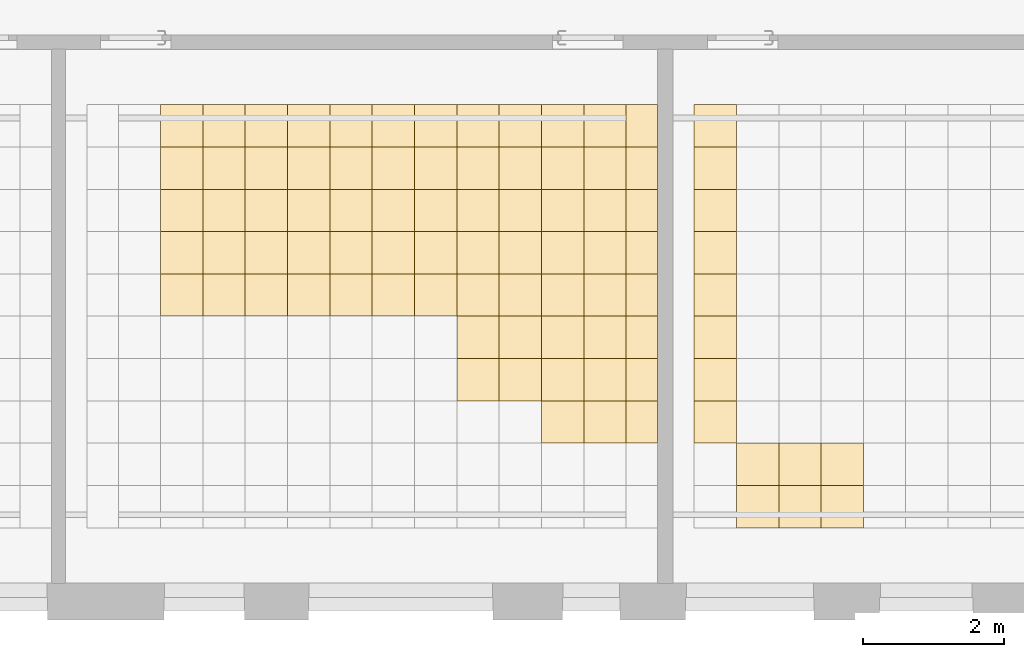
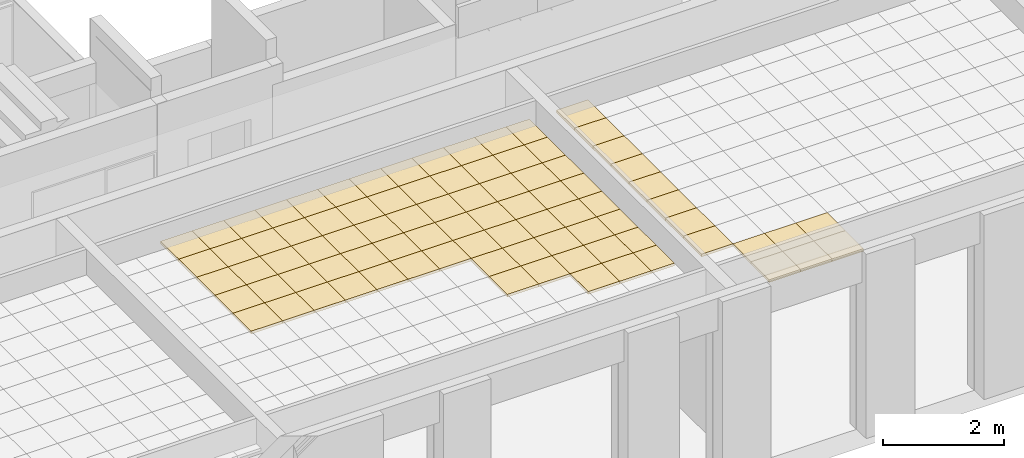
# One storey, part 67 of 79: 87 coverings.
"""IFC2X3 building model written with IfcOpenShell, lengths in millimetres."""

import ifcopenshell
import ifcopenshell.guid

model = None  # the IFC model being written
_history = None  # IfcOwnerHistory: only IFC2X3 demands one
_inside = {}  # id of a spatial element -> (the spatial element, [elements in it])
_under = {}  # id of a project, library or spatial element -> (it, [spatial elements below it])
_declared = {}  # id of a project -> (the project, [libraries it declares])
_typed = {}  # id of a type object -> (the type object, [elements of that type])
_made_of = {}  # id of a material, layer set ... -> (it, [elements and type objects made of it])


def new_model(schema):
    """Start an empty IFC model of exactly this schema.

    Asked for "IFC4X3", IfcOpenShell would pick the latest addendum, in which some entities
    have other attributes; the version numbers below select the first issue.
    IFC2X3 requires an IfcOwnerHistory on every rooted entity: one is made here for all.
    """
    global model, _history
    if schema == "IFC4X3":
        model = ifcopenshell.file(schema_version=(4, 3, 0, 0))
    else:
        model = ifcopenshell.file(schema=schema)
    _inside.clear()
    _under.clear()
    _declared.clear()
    _typed.clear()
    _made_of.clear()
    _history = None
    if model.schema == "IFC2X3":
        org = make("IfcOrganization", Name="unknown")
        user = make(
            "IfcPersonAndOrganization",
            ThePerson=make("IfcPerson", FamilyName="unknown"),
            TheOrganization=org,
        )
        app = make(
            "IfcApplication",
            ApplicationDeveloper=org,
            Version="unknown",
            ApplicationFullName="unknown",
            ApplicationIdentifier="unknown",
        )
        _history = make(
            "IfcOwnerHistory",
            OwningUser=user,
            OwningApplication=app,
            ChangeAction="ADDED",
            CreationDate=0,
        )
    return model


def make(cls, **values):
    """One entity of the class cls with the attributes given. An attribute that is None is left unset."""
    return model.create_entity(
        cls, **{name: value for name, value in values.items() if value is not None}
    )


def entity(cls, *values):
    """Any entity or typed value of the class cls, its attributes in the order of the schema. None: left unset."""
    e = model.create_entity(cls)
    for i, value in enumerate(values):
        if value is not None:
            e[i] = value
    return e


def rooted(cls, **values):
    """An entity with a GlobalId (a new one), such as an element, a storey or a relation."""
    return make(cls, GlobalId=ifcopenshell.guid.new(), OwnerHistory=_history, **values)


def si_unit(unit_type, name, prefix=None):
    """IfcSIUnit, for example si_unit("LENGTHUNIT", "METRE", prefix="MILLI")."""
    return make("IfcSIUnit", UnitType=unit_type, Prefix=prefix, Name=name)


def converted_unit(unit_type, name, factor, base, dimensions=None, offset=None):
    """IfcConversionBasedUnit, such as the inch: factor (a typed value) times the base unit."""
    return make(
        "IfcConversionBasedUnit"
        if offset is None
        else "IfcConversionBasedUnitWithOffset",
        ConversionOffset=offset,
        Dimensions=None
        if dimensions is None
        else entity("IfcDimensionalExponents", *dimensions),
        UnitType=unit_type,
        Name=name,
        ConversionFactor=make(
            "IfcMeasureWithUnit", ValueComponent=factor, UnitComponent=base
        ),
    )


def derived_unit(unit_type, elements):
    """IfcDerivedUnit: a product of units, each with its exponent."""
    return make(
        "IfcDerivedUnit",
        Elements=[
            make("IfcDerivedUnitElement", Unit=unit, Exponent=power)
            for unit, power in elements
        ],
        UnitType=unit_type,
    )


def money_unit(currency):
    """IfcMonetaryUnit."""
    return make("IfcMonetaryUnit", Currency=currency)


def assignment(units):
    """IfcUnitAssignment: the units of a project."""
    return None if units is None else make("IfcUnitAssignment", Units=units)


def point(xyz):
    """IfcCartesianPoint."""
    return None if xyz is None else make("IfcCartesianPoint", Coordinates=xyz)


def direction(xyz):
    """IfcDirection."""
    return None if xyz is None else make("IfcDirection", DirectionRatios=xyz)


def frame(location, z_axis=None, x_axis=None):
    """IfcAxis2Placement3D, a coordinate frame: its origin and axes. An axis left out is left unset."""
    return make(
        "IfcAxis2Placement3D",
        Location=point(location),
        Axis=direction(z_axis),
        RefDirection=direction(x_axis),
    )


def origin_with_axes():
    """The frame at (0, 0, 0) with the z axis (0, 0, 1) and the x axis (1, 0, 0) written out."""
    return frame((0.0, 0.0, 0.0), z_axis=(0.0, 0.0, 1.0), x_axis=(1.0, 0.0, 0.0))


def place(relative_to, where):
    """IfcLocalPlacement: puts the frame where relative to a parent placement (None: the world)."""
    return make(
        "IfcLocalPlacement", PlacementRelTo=relative_to, RelativePlacement=where
    )


def context(
    kind, dimensions, precision=None, world=None, true_north=None, identifier=None
):
    """IfcGeometricRepresentationContext, for example the 3D "Model" context."""
    return make(
        "IfcGeometricRepresentationContext",
        ContextIdentifier=identifier,
        ContextType=kind,
        CoordinateSpaceDimension=dimensions,
        Precision=precision,
        WorldCoordinateSystem=world,
        TrueNorth=true_north,
    )


def subcontext(parent, identifier, kind, view, scale=None):
    """IfcGeometricRepresentationSubContext, for example "Body" below "Model"."""
    return make(
        "IfcGeometricRepresentationSubContext",
        ContextIdentifier=identifier,
        ContextType=kind,
        ParentContext=parent,
        TargetScale=scale,
        TargetView=view,
    )


def project(units=None, contexts=None):
    """IfcProject with its units and contexts."""
    return rooted(
        "IfcProject",
        Name="project",
        RepresentationContexts=contexts,
        UnitsInContext=assignment(units),
    )


def spatial(cls, under=None, at=None, **own):
    """A site, building, storey or space (cls), placed at a placement, below another one or the project."""
    s = rooted(cls, ObjectPlacement=at, **own)
    if under is not None:
        _under.setdefault(under.id(), (under, []))[1].append(s)
    return s


def faces_of(points, faces, orient=None, outer=None):
    """IfcFace entities. A face is a list of loops; a loop is a list of indices into points, from 0.

    orient and outer hold one flag for each loop. By default every Orientation is true, the
    first loop of a face is its IfcFaceOuterBound and the others are IfcFaceBound.
    """
    made = []
    for i, loops in enumerate(faces):
        bounds = []
        for j, loop in enumerate(loops):
            is_outer = j == 0 if outer is None else outer[i][j]
            bounds.append(
                make(
                    "IfcFaceOuterBound" if is_outer else "IfcFaceBound",
                    Bound=make("IfcPolyLoop", Polygon=[points[k] for k in loop]),
                    Orientation=True if orient is None else orient[i][j],
                )
            )
        made.append(make("IfcFace", Bounds=bounds))
    return made


def faceted_brep(points, faces, orient=None, outer=None, voids=None):
    """IfcFacetedBrep: a solid bounded by flat faces; with voids (closed shells), ...WithVoids."""
    shared = [point(p) for p in points]
    hull = make("IfcClosedShell", CfsFaces=faces_of(shared, faces, orient, outer))
    if voids is None:
        return make("IfcFacetedBrep", Outer=hull)
    return make(
        "IfcFacetedBrepWithVoids",
        Outer=hull,
        Voids=[
            make(cls, CfsFaces=faces_of(shared, fs, o, b)) for cls, fs, o, b in voids
        ],
    )


def shape(context_of_items, identifier, shape_type, items):
    """IfcShapeRepresentation: the items that make up one representation, for example the "Body"."""
    return make(
        "IfcShapeRepresentation",
        ContextOfItems=context_of_items,
        RepresentationIdentifier=identifier,
        RepresentationType=shape_type,
        Items=items,
    )


def material(Name=None, Category=None):
    """IfcMaterial."""
    return make("IfcMaterial", Name=Name, Category=Category)


def material_list(materials):
    """IfcMaterialList."""
    return make("IfcMaterialList", Materials=materials)


def made_of(thing, what):
    """Note that an element or type object is made of a material, layer set ...; save() writes the relation."""
    if what is not None:
        _made_of.setdefault(what.id(), (what, []))[1].append(thing)
    return thing


def type_object(cls, material=None, **own):
    """A type object (cls), such as IfcWallType, which elements share."""
    return made_of(rooted(cls, **own), material)


def element(
    cls,
    number,
    at=None,
    inside=None,
    cuts=None,
    type_object=None,
    material=None,
    context=None,
    identifier="Body",
    shape_type=None,
    held_by="IfcProductDefinitionShape",
    body=None,
    shapes=None,
    **own,
):
    """One element of the class cls, such as IfcWall. Its Tag is "e" and its number.

    at: its placement. inside: the storey or other place that contains it. cuts: it is an
    opening in that element (IfcRelVoidsElement). A single representation is given by context,
    identifier, shape_type and body (its items); several are given by shapes. held_by: the class
    of the entity that holds the representations. save() writes the other relations.
    """
    e = rooted(cls, Tag="e%d" % number, ObjectPlacement=at, **own)
    if body is not None:
        shapes = [shape(context, identifier, shape_type, body)]
    if shapes is not None:
        e.Representation = make(held_by, Representations=shapes)
    if inside is not None:
        _inside.setdefault(inside.id(), (inside, []))[1].append(e)
    if cuts is not None:
        rooted(
            "IfcRelVoidsElement", RelatingBuildingElement=cuts, RelatedOpeningElement=e
        )
    if type_object is not None:
        _typed.setdefault(type_object.id(), (type_object, []))[1].append(e)
    return made_of(e, material)


def aggregate(whole, parts):
    """IfcRelAggregates: a whole, such as a stair, and the parts it consists of."""
    return rooted("IfcRelAggregates", RelatingObject=whole, RelatedObjects=parts)


def save(model, path):
    """Write the relations noted so far, then the file.

    IfcRelAggregates (storeys below a building ...), IfcRelContainedInSpatialStructure (elements
    in a storey), IfcRelDefinesByType, IfcRelAssociatesMaterial and IfcRelDeclares: one each for
    every whole, place, type object, material and project.
    """
    for whole, parts in _under.values():
        aggregate(whole, parts)
    for where, things in _inside.values():
        rooted(
            "IfcRelContainedInSpatialStructure",
            RelatedElements=things,
            RelatingStructure=where,
        )
    for kind, things in _typed.values():
        rooted("IfcRelDefinesByType", RelatedObjects=things, RelatingType=kind)
    for what, things in _made_of.values():
        rooted("IfcRelAssociatesMaterial", RelatedObjects=things, RelatingMaterial=what)
    for by, libraries in _declared.values():
        rooted("IfcRelDeclares", RelatingContext=by, RelatedDefinitions=libraries)
    model.write(path)


model = new_model("IFC2X3")

# Units and contexts
model_context = context("Model", 3, precision=0.01, world=origin_with_axes(), true_north=direction((0.0, 1.0)))
body_context = subcontext(model_context, "Body", "Model", "MODEL_VIEW")
ifc_project = project(units=[si_unit("LENGTHUNIT", "METRE", prefix="MILLI"), si_unit("AREAUNIT", "SQUARE_METRE"), si_unit("VOLUMEUNIT", "CUBIC_METRE"), converted_unit("PLANEANGLEUNIT", "DEGREE", entity("IfcPlaneAngleMeasure", 0.0174532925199), si_unit("PLANEANGLEUNIT", "RADIAN"), dimensions=[0, 0, 0, 0, 0, 0, 0]), si_unit("SOLIDANGLEUNIT", "STERADIAN"), money_unit("EUR"), converted_unit("TIMEUNIT", "Year", entity("IfcTimeMeasure", 31556926.0), si_unit("TIMEUNIT", "SECOND"), dimensions=[0, 0, 1, 0, 0, 0, 0]), si_unit("MASSUNIT", "GRAM", prefix="KILO"), si_unit("THERMODYNAMICTEMPERATUREUNIT", "DEGREE_CELSIUS"), si_unit("LUMINOUSINTENSITYUNIT", "LUMEN"), si_unit("ENERGYUNIT", "JOULE", prefix="MEGA"), derived_unit("THERMALCONDUCTANCEUNIT", [(si_unit("POWERUNIT", "WATT"), 1), (si_unit("LENGTHUNIT", "METRE"), -1), (si_unit("THERMODYNAMICTEMPERATUREUNIT", "KELVIN"), -1)]), derived_unit("SPECIFICHEATCAPACITYUNIT", [(si_unit("ENERGYUNIT", "JOULE"), 1), (si_unit("MASSUNIT", "GRAM", prefix="KILO"), -1), (si_unit("THERMODYNAMICTEMPERATUREUNIT", "KELVIN"), -1)]), derived_unit("MASSDENSITYUNIT", [(si_unit("MASSUNIT", "GRAM", prefix="KILO"), 1), (si_unit("VOLUMEUNIT", "CUBIC_METRE"), -1)])], contexts=[model_context])

# Site, building, storey
site_placement = place(None, origin_with_axes())
site = spatial("IfcSite", under=ifc_project, at=site_placement, Name="L.Koidula tn 11b", CompositionType="ELEMENT")
building_placement = place(site_placement, origin_with_axes())
building = spatial("IfcBuilding", under=site, at=building_placement, Name="Rakvere Riigigümnaasium", CompositionType="ELEMENT")
storey_placement = place(building_placement, frame((0.0, 0.0, 3720.0), z_axis=(0.0, 0.0, 1.0), x_axis=(1.0, 0.0, 0.0)))
storey = spatial("IfcBuildingStorey", under=building, at=storey_placement, Name="2.korrus +3,72", CompositionType="ELEMENT", Elevation=3720.0)

# Coverings
ifc_material_1 = material(Name="Karkass")
ifc_material_2 = material(Name="Kipsplaat")
ifc_material_list = material_list([ifc_material_1, ifc_material_2])
covering_type = type_object("IfcCoveringType", Name="SA-LV-Kips-moodul 55", PredefinedType="CEILING")
for number, where, z_axis, x_axis, name in (
    (1, (53609.6770907, 6890.45359412, 2750.0), (0.0, 0.0, 1.0), (1.0, 0.0, 0.0), "L-03"),
    (2, (53609.6770907, 6290.45359412, 2750.0), (0.0, 0.0, 1.0), (1.0, 0.0, 0.0), "L-03"),
):
    element("IfcCovering", number, at=place(storey_placement, frame(where, z_axis=z_axis, x_axis=x_axis)), inside=storey, type_object=covering_type, material=ifc_material_list, Name=name, PredefinedType="CEILING", context=body_context, shape_type="Brep", body=[
        faceted_brep([(599.999948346, 0.0, 12.5), (599.999948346, 0.0, 54.5), (0.0, 0.0, 54.5), (0.0, 0.0, 12.5), (599.999948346, 600.0, 12.5), (599.999948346, 600.0, 54.5), (0.0, 600.0, 54.5), (0.0, 600.0, 12.5)], [[[0, 1, 2, 3]], [[4, 5, 1, 0]], [[2, 1, 5, 6]], [[3, 2, 6, 7]], [[3, 7, 4, 0]], [[7, 6, 5, 4]]]),
        faceted_brep([(0.0, 0.0, 0.0), (599.999948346, 0.0, 0.0), (599.999948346, 0.0, 12.5), (0.0, 0.0, 12.5), (0.0, 600.0, 0.0), (599.999948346, 600.0, 0.0), (599.999948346, 600.0, 12.5), (0.0, 600.0, 12.5)], [[[0, 1, 2, 3]], [[0, 4, 5, 1]], [[1, 5, 6, 2]], [[3, 2, 6, 7]], [[4, 0, 3, 7]], [[5, 4, 7, 6]]]),
    ])
for number, where, z_axis, x_axis, name in (
    (3, (53009.6766386, 8690.45359412, 2750.0), (0.0, 0.0, 1.0), (1.0, 0.0, 0.0), "L-03"),
    (4, (53009.6766386, 8090.45359412, 2750.0), (0.0, 0.0, 1.0), (1.0, 0.0, 0.0), "L-03"),
    (5, (53009.6766386, 7490.45359412, 2750.0), (0.0, 0.0, 1.0), (1.0, 0.0, 0.0), "L-03"),
    (6, (53009.6766386, 11090.4535941, 2750.0), (0.0, 0.0, 1.0), (1.0, 0.0, 0.0), "L-03"),
    (7, (53009.6766386, 10490.4535941, 2750.0), (0.0, 0.0, 1.0), (1.0, 0.0, 0.0), "L-03"),
    (8, (53009.6766386, 9890.45359412, 2750.0), (0.0, 0.0, 1.0), (1.0, 0.0, 0.0), "L-03"),
    (9, (53009.6766386, 9290.45359412, 2750.0), (0.0, 0.0, 1.0), (1.0, 0.0, 0.0), "L-03"),
    (10, (53009.6766386, 11690.4535941, 2750.0), (0.0, 0.0, 1.0), (1.0, 0.0, 0.0), "L-03"),
):
    element("IfcCovering", number, at=place(storey_placement, frame(where, z_axis=z_axis, x_axis=x_axis)), inside=storey, type_object=covering_type, material=ifc_material_list, Name=name, PredefinedType="CEILING", context=body_context, shape_type="Brep", body=[
        faceted_brep([(600.000452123, 0.0, 12.5), (600.000452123, 0.0, 54.5), (0.0, 0.0, 54.5), (0.0, 0.0, 12.5), (600.000452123, 600.0, 12.5), (600.000452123, 600.0, 54.5), (0.0, 600.0, 54.5), (0.0, 600.0, 12.5)], [[[0, 1, 2, 3]], [[4, 5, 1, 0]], [[2, 1, 5, 6]], [[3, 2, 6, 7]], [[3, 7, 4, 0]], [[7, 6, 5, 4]]]),
        faceted_brep([(0.0, 0.0, 0.0), (600.000452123, 0.0, 0.0), (600.000452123, 0.0, 12.5), (0.0, 0.0, 12.5), (0.0, 600.0, 0.0), (600.000452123, 600.0, 0.0), (600.000452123, 600.0, 12.5), (0.0, 600.0, 12.5)], [[[0, 1, 2, 3]], [[0, 4, 5, 1]], [[1, 5, 6, 2]], [[3, 2, 6, 7]], [[4, 0, 3, 7]], [[5, 4, 7, 6]]]),
    ])
for number, where, z_axis, x_axis, name in (
    (11, (54209.677039, 6290.45359412, 2750.0), (0.0, 0.0, 1.0), (1.0, 0.0, 0.0), "L-03"),
    (12, (54209.677039, 6890.45359412, 2750.0), (0.0, 0.0, 1.0), (1.0, 0.0, 0.0), "L-03"),
):
    element("IfcCovering", number, at=place(storey_placement, frame(where, z_axis=z_axis, x_axis=x_axis)), inside=storey, type_object=covering_type, material=ifc_material_list, Name=name, PredefinedType="CEILING", context=body_context, shape_type="Brep", body=[
        faceted_brep([(600.0, 0.0, 12.5), (600.0, 0.0, 54.5), (0.0, 0.0, 54.5), (0.0, 0.0, 12.5), (600.0, 600.0, 12.5), (600.0, 600.0, 54.5), (0.0, 600.0, 54.5), (0.0, 600.0, 12.5)], [[[0, 1, 2, 3]], [[4, 5, 1, 0]], [[2, 1, 5, 6]], [[3, 2, 6, 7]], [[3, 7, 4, 0]], [[7, 6, 5, 4]]]),
        faceted_brep([(0.0, 0.0, 0.0), (600.0, 0.0, 0.0), (600.0, 0.0, 12.5), (0.0, 0.0, 12.5), (0.0, 600.0, 0.0), (600.0, 600.0, 0.0), (600.0, 600.0, 12.5), (0.0, 600.0, 12.5)], [[[0, 1, 2, 3]], [[0, 4, 5, 1]], [[1, 5, 6, 2]], [[3, 2, 6, 7]], [[4, 0, 3, 7]], [[5, 4, 7, 6]]]),
    ])
for number, where, z_axis, x_axis, name in (
    (13, (54809.677039, 6890.45359412, 2750.0), (0.0, 0.0, 1.0), (1.0, 0.0, 0.0), "L-03"),
    (14, (54809.677039, 6290.45359412, 2750.0), (0.0, 0.0, 1.0), (1.0, 0.0, 0.0), "L-03"),
):
    element("IfcCovering", number, at=place(storey_placement, frame(where, z_axis=z_axis, x_axis=x_axis)), inside=storey, type_object=covering_type, material=ifc_material_list, Name=name, PredefinedType="CEILING", context=body_context, shape_type="Brep", body=[
        faceted_brep([(599.999948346, 0.0, 12.5), (599.999948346, 0.0, 54.5), (0.0, 0.0, 54.5), (0.0, 0.0, 12.5), (599.999948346, 600.0, 12.5), (599.999948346, 600.0, 54.5), (0.0, 600.0, 54.5), (0.0, 600.0, 12.5)], [[[0, 1, 2, 3]], [[4, 5, 1, 0]], [[2, 1, 5, 6]], [[3, 2, 6, 7]], [[3, 7, 4, 0]], [[7, 6, 5, 4]]]),
        faceted_brep([(0.0, 0.0, 0.0), (599.999948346, 0.0, 0.0), (599.999948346, 0.0, 12.5), (0.0, 0.0, 12.5), (0.0, 600.0, 0.0), (599.999948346, 600.0, 0.0), (599.999948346, 600.0, 12.5), (0.0, 600.0, 12.5)], [[[0, 1, 2, 3]], [[0, 4, 5, 1]], [[1, 5, 6, 2]], [[3, 2, 6, 7]], [[4, 0, 3, 7]], [[5, 4, 7, 6]]]),
    ])
covering_1_placement = place(storey_placement, frame((47844.8403387, 11090.4535941, 2750.0), z_axis=(0.0, 0.0, 1.0), x_axis=(1.0, 0.0, 0.0)))
element("IfcCovering", 15, at=covering_1_placement, inside=storey, type_object=covering_type, material=ifc_material_list, Name="L-03", PredefinedType="CEILING", context=body_context, shape_type="Brep", body=[
    faceted_brep([(600.0, 0.0, 12.5), (600.0, 0.0, 54.5), (0.0, 0.0, 54.5), (0.0, 0.0, 12.5), (600.0, 600.0, 12.5), (600.0, 600.0, 54.5), (0.0, 600.0, 54.5), (0.0, 600.0, 12.5)], [[[0, 1, 2, 3]], [[4, 5, 1, 0]], [[2, 1, 5, 6]], [[3, 2, 6, 7]], [[3, 7, 4, 0]], [[7, 6, 5, 4]]]),
    faceted_brep([(0.0, 0.0, 0.0), (600.0, 0.0, 0.0), (600.0, 0.0, 12.5), (0.0, 0.0, 12.5), (0.0, 600.0, 0.0), (600.0, 600.0, 0.0), (600.0, 600.0, 12.5), (0.0, 600.0, 12.5)], [[[0, 1, 2, 3]], [[0, 4, 5, 1]], [[1, 5, 6, 2]], [[3, 2, 6, 7]], [[4, 0, 3, 7]], [[5, 4, 7, 6]]]),
])
covering_2_placement = place(storey_placement, frame((46044.8404421, 11090.4535941, 2750.0), z_axis=(0.0, 0.0, 1.0), x_axis=(1.0, 0.0, 0.0)))
element("IfcCovering", 16, at=covering_2_placement, inside=storey, type_object=covering_type, material=ifc_material_list, Name="L-03", PredefinedType="CEILING", context=body_context, shape_type="Brep", body=[
    faceted_brep([(599.999948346, 0.0, 12.5), (599.999948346, 0.0, 54.5), (0.0, 0.0, 54.5), (0.0, 0.0, 12.5), (599.999948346, 600.0, 12.5), (599.999948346, 600.0, 54.5), (0.0, 600.0, 54.5), (0.0, 600.0, 12.5)], [[[0, 1, 2, 3]], [[4, 5, 1, 0]], [[2, 1, 5, 6]], [[3, 2, 6, 7]], [[3, 7, 4, 0]], [[7, 6, 5, 4]]]),
    faceted_brep([(0.0, 0.0, 0.0), (599.999948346, 0.0, 0.0), (599.999948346, 0.0, 12.5), (0.0, 0.0, 12.5), (0.0, 600.0, 0.0), (599.999948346, 600.0, 0.0), (599.999948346, 600.0, 12.5), (0.0, 600.0, 12.5)], [[[0, 1, 2, 3]], [[0, 4, 5, 1]], [[1, 5, 6, 2]], [[3, 2, 6, 7]], [[4, 0, 3, 7]], [[5, 4, 7, 6]]]),
])
for number, where, z_axis, x_axis, name in (
    (17, (49044.8402871, 9890.45359412, 2750.0), (0.0, 0.0, 1.0), (1.0, 0.0, 0.0), "L-03"),
    (18, (50244.8402354, 11690.4535941, 2750.0), (0.0, 0.0, 1.0), (1.0, 0.0, 0.0), "L-03"),
    (19, (50244.8402354, 9890.45359412, 2750.0), (0.0, 0.0, 1.0), (1.0, 0.0, 0.0), "L-03"),
    (20, (50244.8402354, 9290.45359412, 2750.0), (0.0, 0.0, 1.0), (1.0, 0.0, 0.0), "L-03"),
    (21, (50244.8402354, 8690.45359412, 2750.0), (0.0, 0.0, 1.0), (1.0, 0.0, 0.0), "L-03"),
    (22, (50244.8402354, 8090.45359412, 2750.0), (0.0, 0.0, 1.0), (1.0, 0.0, 0.0), "L-03"),
    (23, (51444.8401838, 7490.45359412, 2750.0), (0.0, 0.0, 1.0), (1.0, 0.0, 0.0), "L-03"),
    (24, (51444.8401838, 9290.45359412, 2750.0), (0.0, 0.0, 1.0), (1.0, 0.0, 0.0), "L-03"),
    (25, (51444.8401838, 8690.45359412, 2750.0), (0.0, 0.0, 1.0), (1.0, 0.0, 0.0), "L-03"),
    (26, (51444.8401838, 8090.45359412, 2750.0), (0.0, 0.0, 1.0), (1.0, 0.0, 0.0), "L-03"),
    (27, (51444.8401838, 11090.4535941, 2750.0), (0.0, 0.0, 1.0), (1.0, 0.0, 0.0), "L-03"),
    (28, (51444.8401838, 9890.45359412, 2750.0), (0.0, 0.0, 1.0), (1.0, 0.0, 0.0), "L-03"),
    (29, (51444.8401838, 11690.4535941, 2750.0), (0.0, 0.0, 1.0), (1.0, 0.0, 0.0), "L-03"),
    (30, (51444.8401838, 10490.4535941, 2750.0), (0.0, 0.0, 1.0), (1.0, 0.0, 0.0), "L-03"),
):
    element("IfcCovering", number, at=place(storey_placement, frame(where, z_axis=z_axis, x_axis=x_axis)), inside=storey, type_object=covering_type, material=ifc_material_list, Name=name, PredefinedType="CEILING", context=body_context, shape_type="Brep", body=[
        faceted_brep([(600.0, 0.0, 12.5), (600.0, 0.0, 54.5), (0.0, 0.0, 54.5), (0.0, 0.0, 12.5), (600.0, 600.0, 12.5), (600.0, 600.0, 54.5), (0.0, 600.0, 54.5), (0.0, 600.0, 12.5)], [[[0, 1, 2, 3]], [[4, 5, 1, 0]], [[2, 1, 5, 6]], [[3, 2, 6, 7]], [[3, 7, 4, 0]], [[7, 6, 5, 4]]]),
        faceted_brep([(0.0, 0.0, 0.0), (600.0, 0.0, 0.0), (600.0, 0.0, 12.5), (0.0, 0.0, 12.5), (0.0, 600.0, 0.0), (600.0, 600.0, 0.0), (600.0, 600.0, 12.5), (0.0, 600.0, 12.5)], [[[0, 1, 2, 3]], [[0, 4, 5, 1]], [[1, 5, 6, 2]], [[3, 2, 6, 7]], [[4, 0, 3, 7]], [[5, 4, 7, 6]]]),
    ])
for number, where, z_axis, x_axis, name in (
    (31, (50844.8402354, 11690.4535941, 2750.0), (0.0, 0.0, 1.0), (1.0, 0.0, 0.0), "L-03"),
    (32, (50844.8402354, 7490.45359412, 2750.0), (0.0, 0.0, 1.0), (1.0, 0.0, 0.0), "L-03"),
    (33, (50844.8402354, 8090.45359412, 2750.0), (0.0, 0.0, 1.0), (1.0, 0.0, 0.0), "L-03"),
    (34, (50844.8402354, 8690.45359412, 2750.0), (0.0, 0.0, 1.0), (1.0, 0.0, 0.0), "L-03"),
):
    element("IfcCovering", number, at=place(storey_placement, frame(where, z_axis=z_axis, x_axis=x_axis)), inside=storey, type_object=covering_type, material=ifc_material_list, Name=name, PredefinedType="CEILING", context=body_context, shape_type="Brep", body=[
        faceted_brep([(599.999948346, 0.0, 12.5), (599.999948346, 0.0, 54.5), (0.0, 0.0, 54.5), (0.0, 0.0, 12.5), (599.999948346, 600.0, 12.5), (599.999948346, 600.0, 54.5), (0.0, 600.0, 54.5), (0.0, 600.0, 12.5)], [[[0, 1, 2, 3]], [[4, 5, 1, 0]], [[2, 1, 5, 6]], [[3, 2, 6, 7]], [[3, 7, 4, 0]], [[7, 6, 5, 4]]]),
        faceted_brep([(0.0, 0.0, 0.0), (599.999948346, 0.0, 0.0), (599.999948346, 0.0, 12.5), (0.0, 0.0, 12.5), (0.0, 600.0, 0.0), (599.999948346, 600.0, 0.0), (599.999948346, 600.0, 12.5), (0.0, 600.0, 12.5)], [[[0, 1, 2, 3]], [[0, 4, 5, 1]], [[1, 5, 6, 2]], [[3, 2, 6, 7]], [[4, 0, 3, 7]], [[5, 4, 7, 6]]]),
    ])
covering_3_placement = place(storey_placement, frame((50244.8402354, 10490.4535941, 2750.0), z_axis=(0.0, 0.0, 1.0), x_axis=(1.0, 0.0, 0.0)))
element("IfcCovering", 35, at=covering_3_placement, inside=storey, type_object=covering_type, material=ifc_material_list, Name="L-03", PredefinedType="CEILING", context=body_context, shape_type="Brep", body=[
    faceted_brep([(600.0, 0.0, 12.5), (600.0, 0.0, 54.5), (0.0, 0.0, 54.5), (0.0, 0.0, 12.5), (600.0, 600.0, 12.5), (600.0, 600.0, 54.5), (0.0, 600.0, 54.5), (0.0, 600.0, 12.5)], [[[0, 1, 2, 3]], [[4, 5, 1, 0]], [[2, 1, 5, 6]], [[3, 2, 6, 7]], [[3, 7, 4, 0]], [[7, 6, 5, 4]]]),
    faceted_brep([(0.0, 0.0, 0.0), (600.0, 0.0, 0.0), (600.0, 0.0, 12.5), (0.0, 0.0, 12.5), (0.0, 600.0, 0.0), (600.0, 600.0, 0.0), (600.0, 600.0, 12.5), (0.0, 600.0, 12.5)], [[[0, 1, 2, 3]], [[0, 4, 5, 1]], [[1, 5, 6, 2]], [[3, 2, 6, 7]], [[4, 0, 3, 7]], [[5, 4, 7, 6]]]),
])
for number, where, z_axis, x_axis, name in (
    (36, (50844.8402354, 9290.45359412, 2750.0), (0.0, 0.0, 1.0), (1.0, 0.0, 0.0), "L-03"),
    (37, (50844.8402354, 9890.45359412, 2750.0), (0.0, 0.0, 1.0), (1.0, 0.0, 0.0), "L-03"),
    (38, (50844.8402354, 11090.4535941, 2750.0), (0.0, 0.0, 1.0), (1.0, 0.0, 0.0), "L-03"),
    (39, (50844.8402354, 10490.4535941, 2750.0), (0.0, 0.0, 1.0), (1.0, 0.0, 0.0), "L-03"),
):
    element("IfcCovering", number, at=place(storey_placement, frame(where, z_axis=z_axis, x_axis=x_axis)), inside=storey, type_object=covering_type, material=ifc_material_list, Name=name, PredefinedType="CEILING", context=body_context, shape_type="Brep", body=[
        faceted_brep([(599.999948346, 0.0, 12.5), (599.999948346, 0.0, 54.5), (0.0, 0.0, 54.5), (0.0, 0.0, 12.5), (599.999948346, 600.0, 12.5), (599.999948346, 600.0, 54.5), (0.0, 600.0, 54.5), (0.0, 600.0, 12.5)], [[[0, 1, 2, 3]], [[4, 5, 1, 0]], [[2, 1, 5, 6]], [[3, 2, 6, 7]], [[3, 7, 4, 0]], [[7, 6, 5, 4]]]),
        faceted_brep([(0.0, 0.0, 0.0), (599.999948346, 0.0, 0.0), (599.999948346, 0.0, 12.5), (0.0, 0.0, 12.5), (0.0, 600.0, 0.0), (599.999948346, 600.0, 0.0), (599.999948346, 600.0, 12.5), (0.0, 600.0, 12.5)], [[[0, 1, 2, 3]], [[0, 4, 5, 1]], [[1, 5, 6, 2]], [[3, 2, 6, 7]], [[4, 0, 3, 7]], [[5, 4, 7, 6]]]),
    ])
for number, where, z_axis, x_axis, name in (
    (40, (49044.8402871, 9290.45359412, 2750.0), (0.0, 0.0, 1.0), (1.0, 0.0, 0.0), "L-03"),
    (41, (50244.8402354, 11090.4535941, 2750.0), (0.0, 0.0, 1.0), (1.0, 0.0, 0.0), "L-03"),
    (42, (49044.8402871, 11690.4535941, 2750.0), (0.0, 0.0, 1.0), (1.0, 0.0, 0.0), "L-03"),
    (43, (49044.8402871, 11090.4535941, 2750.0), (0.0, 0.0, 1.0), (1.0, 0.0, 0.0), "L-03"),
    (44, (49044.8402871, 10490.4535941, 2750.0), (0.0, 0.0, 1.0), (1.0, 0.0, 0.0), "L-03"),
):
    element("IfcCovering", number, at=place(storey_placement, frame(where, z_axis=z_axis, x_axis=x_axis)), inside=storey, type_object=covering_type, material=ifc_material_list, Name=name, PredefinedType="CEILING", context=body_context, shape_type="Brep", body=[
        faceted_brep([(600.0, 0.0, 12.5), (600.0, 0.0, 54.5), (0.0, 0.0, 54.5), (0.0, 0.0, 12.5), (600.0, 600.0, 12.5), (600.0, 600.0, 54.5), (0.0, 600.0, 54.5), (0.0, 600.0, 12.5)], [[[0, 1, 2, 3]], [[4, 5, 1, 0]], [[2, 1, 5, 6]], [[3, 2, 6, 7]], [[3, 7, 4, 0]], [[7, 6, 5, 4]]]),
        faceted_brep([(0.0, 0.0, 0.0), (600.0, 0.0, 0.0), (600.0, 0.0, 12.5), (0.0, 0.0, 12.5), (0.0, 600.0, 0.0), (600.0, 600.0, 0.0), (600.0, 600.0, 12.5), (0.0, 600.0, 12.5)], [[[0, 1, 2, 3]], [[0, 4, 5, 1]], [[1, 5, 6, 2]], [[3, 2, 6, 7]], [[4, 0, 3, 7]], [[5, 4, 7, 6]]]),
    ])
for number, where, z_axis, x_axis, name in (
    (45, (47244.8403904, 11690.4535941, 2750.0), (0.0, 0.0, 1.0), (1.0, 0.0, 0.0), "L-03"),
    (46, (46044.8404421, 10490.4535941, 2750.0), (0.0, 0.0, 1.0), (1.0, 0.0, 0.0), "L-03"),
    (47, (46044.8404421, 9890.45359412, 2750.0), (0.0, 0.0, 1.0), (1.0, 0.0, 0.0), "L-03"),
    (48, (49644.8402871, 11690.4535941, 2750.0), (0.0, 0.0, 1.0), (1.0, 0.0, 0.0), "L-03"),
    (49, (47244.8403904, 9290.45359412, 2750.0), (0.0, 0.0, 1.0), (1.0, 0.0, 0.0), "L-03"),
    (50, (47244.8403904, 9890.45359412, 2750.0), (0.0, 0.0, 1.0), (1.0, 0.0, 0.0), "L-03"),
    (51, (49644.8402871, 8090.45359412, 2750.0), (0.0, 0.0, 1.0), (1.0, 0.0, 0.0), "L-03"),
    (52, (47244.8403904, 11090.4535941, 2750.0), (0.0, 0.0, 1.0), (1.0, 0.0, 0.0), "L-03"),
    (53, (49644.8402871, 8690.45359412, 2750.0), (0.0, 0.0, 1.0), (1.0, 0.0, 0.0), "L-03"),
    (54, (47244.8403904, 10490.4535941, 2750.0), (0.0, 0.0, 1.0), (1.0, 0.0, 0.0), "L-03"),
    (55, (49644.8402871, 9290.45359412, 2750.0), (0.0, 0.0, 1.0), (1.0, 0.0, 0.0), "L-03"),
    (56, (49644.8402871, 9890.45359412, 2750.0), (0.0, 0.0, 1.0), (1.0, 0.0, 0.0), "L-03"),
    (57, (49644.8402871, 10490.4535941, 2750.0), (0.0, 0.0, 1.0), (1.0, 0.0, 0.0), "L-03"),
):
    element("IfcCovering", number, at=place(storey_placement, frame(where, z_axis=z_axis, x_axis=x_axis)), inside=storey, type_object=covering_type, material=ifc_material_list, Name=name, PredefinedType="CEILING", context=body_context, shape_type="Brep", body=[
        faceted_brep([(599.999948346, 0.0, 12.5), (599.999948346, 0.0, 54.5), (0.0, 0.0, 54.5), (0.0, 0.0, 12.5), (599.999948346, 600.0, 12.5), (599.999948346, 600.0, 54.5), (0.0, 600.0, 54.5), (0.0, 600.0, 12.5)], [[[0, 1, 2, 3]], [[4, 5, 1, 0]], [[2, 1, 5, 6]], [[3, 2, 6, 7]], [[3, 7, 4, 0]], [[7, 6, 5, 4]]]),
        faceted_brep([(0.0, 0.0, 0.0), (599.999948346, 0.0, 0.0), (599.999948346, 0.0, 12.5), (0.0, 0.0, 12.5), (0.0, 600.0, 0.0), (599.999948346, 600.0, 0.0), (599.999948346, 600.0, 12.5), (0.0, 600.0, 12.5)], [[[0, 1, 2, 3]], [[0, 4, 5, 1]], [[1, 5, 6, 2]], [[3, 2, 6, 7]], [[4, 0, 3, 7]], [[5, 4, 7, 6]]]),
    ])
covering_4_placement = place(storey_placement, frame((45444.8404421, 11090.4535941, 2750.0), z_axis=(0.0, 0.0, 1.0), x_axis=(1.0, 0.0, 0.0)))
element("IfcCovering", 58, at=covering_4_placement, inside=storey, type_object=covering_type, material=ifc_material_list, Name="L-03", PredefinedType="CEILING", context=body_context, shape_type="Brep", body=[
    faceted_brep([(600.0, 0.0, 12.5), (600.0, 0.0, 54.5), (0.0, 0.0, 54.5), (0.0, 0.0, 12.5), (600.0, 600.0, 12.5), (600.0, 600.0, 54.5), (0.0, 600.0, 54.5), (0.0, 600.0, 12.5)], [[[0, 1, 2, 3]], [[4, 5, 1, 0]], [[2, 1, 5, 6]], [[3, 2, 6, 7]], [[3, 7, 4, 0]], [[7, 6, 5, 4]]]),
    faceted_brep([(0.0, 0.0, 0.0), (600.0, 0.0, 0.0), (600.0, 0.0, 12.5), (0.0, 0.0, 12.5), (0.0, 600.0, 0.0), (600.0, 600.0, 0.0), (600.0, 600.0, 12.5), (0.0, 600.0, 12.5)], [[[0, 1, 2, 3]], [[0, 4, 5, 1]], [[1, 5, 6, 2]], [[3, 2, 6, 7]], [[4, 0, 3, 7]], [[5, 4, 7, 6]]]),
])
covering_5_placement = place(storey_placement, frame((49644.8402871, 11090.4535941, 2750.0), z_axis=(0.0, 0.0, 1.0), x_axis=(1.0, 0.0, 0.0)))
element("IfcCovering", 59, at=covering_5_placement, inside=storey, type_object=covering_type, material=ifc_material_list, Name="L-03", PredefinedType="CEILING", context=body_context, shape_type="Brep", body=[
    faceted_brep([(599.999948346, 0.0, 12.5), (599.999948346, 0.0, 54.5), (0.0, 0.0, 54.5), (0.0, 0.0, 12.5), (599.999948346, 600.0, 12.5), (599.999948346, 600.0, 54.5), (0.0, 600.0, 54.5), (0.0, 600.0, 12.5)], [[[0, 1, 2, 3]], [[4, 5, 1, 0]], [[2, 1, 5, 6]], [[3, 2, 6, 7]], [[3, 7, 4, 0]], [[7, 6, 5, 4]]]),
    faceted_brep([(0.0, 0.0, 0.0), (599.999948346, 0.0, 0.0), (599.999948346, 0.0, 12.5), (0.0, 0.0, 12.5), (0.0, 600.0, 0.0), (599.999948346, 600.0, 0.0), (599.999948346, 600.0, 12.5), (0.0, 600.0, 12.5)], [[[0, 1, 2, 3]], [[0, 4, 5, 1]], [[1, 5, 6, 2]], [[3, 2, 6, 7]], [[4, 0, 3, 7]], [[5, 4, 7, 6]]]),
])
covering_6_placement = place(storey_placement, frame((45444.8404421, 11690.4535941, 2750.0), z_axis=(0.0, 0.0, 1.0), x_axis=(1.0, 0.0, 0.0)))
element("IfcCovering", 60, at=covering_6_placement, inside=storey, type_object=covering_type, material=ifc_material_list, Name="L-03", PredefinedType="CEILING", context=body_context, shape_type="Brep", body=[
    faceted_brep([(600.0, 0.0, 12.5), (600.0, 0.0, 54.5), (0.0, 0.0, 54.5), (0.0, 0.0, 12.5), (600.0, 600.0, 12.5), (600.0, 600.0, 54.5), (0.0, 600.0, 54.5), (0.0, 600.0, 12.5)], [[[0, 1, 2, 3]], [[4, 5, 1, 0]], [[2, 1, 5, 6]], [[3, 2, 6, 7]], [[3, 7, 4, 0]], [[7, 6, 5, 4]]]),
    faceted_brep([(0.0, 0.0, 0.0), (600.0, 0.0, 0.0), (600.0, 0.0, 12.5), (0.0, 0.0, 12.5), (0.0, 600.0, 0.0), (600.0, 600.0, 0.0), (600.0, 600.0, 12.5), (0.0, 600.0, 12.5)], [[[0, 1, 2, 3]], [[0, 4, 5, 1]], [[1, 5, 6, 2]], [[3, 2, 6, 7]], [[4, 0, 3, 7]], [[5, 4, 7, 6]]]),
])
covering_7_placement = place(storey_placement, frame((46044.8404421, 9290.45359412, 2750.0), z_axis=(0.0, 0.0, 1.0), x_axis=(1.0, 0.0, 0.0)))
element("IfcCovering", 61, at=covering_7_placement, inside=storey, type_object=covering_type, material=ifc_material_list, Name="L-03", PredefinedType="CEILING", context=body_context, shape_type="Brep", body=[
    faceted_brep([(599.999948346, 0.0, 12.5), (599.999948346, 0.0, 54.5), (0.0, 0.0, 54.5), (0.0, 0.0, 12.5), (599.999948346, 600.0, 12.5), (599.999948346, 600.0, 54.5), (0.0, 600.0, 54.5), (0.0, 600.0, 12.5)], [[[0, 1, 2, 3]], [[4, 5, 1, 0]], [[2, 1, 5, 6]], [[3, 2, 6, 7]], [[3, 7, 4, 0]], [[7, 6, 5, 4]]]),
    faceted_brep([(0.0, 0.0, 0.0), (599.999948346, 0.0, 0.0), (599.999948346, 0.0, 12.5), (0.0, 0.0, 12.5), (0.0, 600.0, 0.0), (599.999948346, 600.0, 0.0), (599.999948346, 600.0, 12.5), (0.0, 600.0, 12.5)], [[[0, 1, 2, 3]], [[0, 4, 5, 1]], [[1, 5, 6, 2]], [[3, 2, 6, 7]], [[4, 0, 3, 7]], [[5, 4, 7, 6]]]),
])
for number, where, z_axis, x_axis, name in (
    (62, (45444.8404421, 9290.45359412, 2750.0), (0.0, 0.0, 1.0), (1.0, 0.0, 0.0), "L-03"),
    (63, (45444.8404421, 9890.45359412, 2750.0), (0.0, 0.0, 1.0), (1.0, 0.0, 0.0), "L-03"),
    (64, (45444.8404421, 10490.4535941, 2750.0), (0.0, 0.0, 1.0), (1.0, 0.0, 0.0), "L-03"),
):
    element("IfcCovering", number, at=place(storey_placement, frame(where, z_axis=z_axis, x_axis=x_axis)), inside=storey, type_object=covering_type, material=ifc_material_list, Name=name, PredefinedType="CEILING", context=body_context, shape_type="Brep", body=[
        faceted_brep([(600.0, 0.0, 12.5), (600.0, 0.0, 54.5), (0.0, 0.0, 54.5), (0.0, 0.0, 12.5), (600.0, 600.0, 12.5), (600.0, 600.0, 54.5), (0.0, 600.0, 54.5), (0.0, 600.0, 12.5)], [[[0, 1, 2, 3]], [[4, 5, 1, 0]], [[2, 1, 5, 6]], [[3, 2, 6, 7]], [[3, 7, 4, 0]], [[7, 6, 5, 4]]]),
        faceted_brep([(0.0, 0.0, 0.0), (600.0, 0.0, 0.0), (600.0, 0.0, 12.5), (0.0, 0.0, 12.5), (0.0, 600.0, 0.0), (600.0, 600.0, 0.0), (600.0, 600.0, 12.5), (0.0, 600.0, 12.5)], [[[0, 1, 2, 3]], [[0, 4, 5, 1]], [[1, 5, 6, 2]], [[3, 2, 6, 7]], [[4, 0, 3, 7]], [[5, 4, 7, 6]]]),
    ])
covering_8_placement = place(storey_placement, frame((48444.8403387, 11090.4535941, 2750.0), z_axis=(0.0, 0.0, 1.0), x_axis=(1.0, 0.0, 0.0)))
element("IfcCovering", 65, at=covering_8_placement, inside=storey, type_object=covering_type, material=ifc_material_list, Name="L-03", PredefinedType="CEILING", context=body_context, shape_type="Brep", body=[
    faceted_brep([(599.999948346, 0.0, 12.5), (599.999948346, 0.0, 54.5), (0.0, 0.0, 54.5), (0.0, 0.0, 12.5), (599.999948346, 600.0, 12.5), (599.999948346, 600.0, 54.5), (0.0, 600.0, 54.5), (0.0, 600.0, 12.5)], [[[0, 1, 2, 3]], [[4, 5, 1, 0]], [[2, 1, 5, 6]], [[3, 2, 6, 7]], [[3, 7, 4, 0]], [[7, 6, 5, 4]]]),
    faceted_brep([(0.0, 0.0, 0.0), (599.999948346, 0.0, 0.0), (599.999948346, 0.0, 12.5), (0.0, 0.0, 12.5), (0.0, 600.0, 0.0), (599.999948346, 600.0, 0.0), (599.999948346, 600.0, 12.5), (0.0, 600.0, 12.5)], [[[0, 1, 2, 3]], [[0, 4, 5, 1]], [[1, 5, 6, 2]], [[3, 2, 6, 7]], [[4, 0, 3, 7]], [[5, 4, 7, 6]]]),
])
for number, where, z_axis, x_axis, name in (
    (66, (47844.8403387, 11690.4535941, 2750.0), (0.0, 0.0, 1.0), (1.0, 0.0, 0.0), "L-03"),
    (67, (47844.8403387, 9890.45359412, 2750.0), (0.0, 0.0, 1.0), (1.0, 0.0, 0.0), "L-03"),
    (68, (47844.8403387, 10490.4535941, 2750.0), (0.0, 0.0, 1.0), (1.0, 0.0, 0.0), "L-03"),
):
    element("IfcCovering", number, at=place(storey_placement, frame(where, z_axis=z_axis, x_axis=x_axis)), inside=storey, type_object=covering_type, material=ifc_material_list, Name=name, PredefinedType="CEILING", context=body_context, shape_type="Brep", body=[
        faceted_brep([(600.0, 0.0, 12.5), (600.0, 0.0, 54.5), (0.0, 0.0, 54.5), (0.0, 0.0, 12.5), (600.0, 600.0, 12.5), (600.0, 600.0, 54.5), (0.0, 600.0, 54.5), (0.0, 600.0, 12.5)], [[[0, 1, 2, 3]], [[4, 5, 1, 0]], [[2, 1, 5, 6]], [[3, 2, 6, 7]], [[3, 7, 4, 0]], [[7, 6, 5, 4]]]),
        faceted_brep([(0.0, 0.0, 0.0), (600.0, 0.0, 0.0), (600.0, 0.0, 12.5), (0.0, 0.0, 12.5), (0.0, 600.0, 0.0), (600.0, 600.0, 0.0), (600.0, 600.0, 12.5), (0.0, 600.0, 12.5)], [[[0, 1, 2, 3]], [[0, 4, 5, 1]], [[1, 5, 6, 2]], [[3, 2, 6, 7]], [[4, 0, 3, 7]], [[5, 4, 7, 6]]]),
    ])
covering_9_placement = place(storey_placement, frame((48444.8403387, 10490.4535941, 2750.0), z_axis=(0.0, 0.0, 1.0), x_axis=(1.0, 0.0, 0.0)))
element("IfcCovering", 69, at=covering_9_placement, inside=storey, type_object=covering_type, material=ifc_material_list, Name="L-03", PredefinedType="CEILING", context=body_context, shape_type="Brep", body=[
    faceted_brep([(599.999948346, 0.0, 12.5), (599.999948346, 0.0, 54.5), (0.0, 0.0, 54.5), (0.0, 0.0, 12.5), (599.999948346, 600.0, 12.5), (599.999948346, 600.0, 54.5), (0.0, 600.0, 54.5), (0.0, 600.0, 12.5)], [[[0, 1, 2, 3]], [[4, 5, 1, 0]], [[2, 1, 5, 6]], [[3, 2, 6, 7]], [[3, 7, 4, 0]], [[7, 6, 5, 4]]]),
    faceted_brep([(0.0, 0.0, 0.0), (599.999948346, 0.0, 0.0), (599.999948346, 0.0, 12.5), (0.0, 0.0, 12.5), (0.0, 600.0, 0.0), (599.999948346, 600.0, 0.0), (599.999948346, 600.0, 12.5), (0.0, 600.0, 12.5)], [[[0, 1, 2, 3]], [[0, 4, 5, 1]], [[1, 5, 6, 2]], [[3, 2, 6, 7]], [[4, 0, 3, 7]], [[5, 4, 7, 6]]]),
])
for number, where, z_axis, x_axis, name in (
    (70, (47844.8403387, 9290.45359412, 2750.0), (0.0, 0.0, 1.0), (1.0, 0.0, 0.0), "L-03"),
    (71, (46644.8403904, 11690.4535941, 2750.0), (0.0, 0.0, 1.0), (1.0, 0.0, 0.0), "L-03"),
):
    element("IfcCovering", number, at=place(storey_placement, frame(where, z_axis=z_axis, x_axis=x_axis)), inside=storey, type_object=covering_type, material=ifc_material_list, Name=name, PredefinedType="CEILING", context=body_context, shape_type="Brep", body=[
        faceted_brep([(600.0, 0.0, 12.5), (600.0, 0.0, 54.5), (0.0, 0.0, 54.5), (0.0, 0.0, 12.5), (600.0, 600.0, 12.5), (600.0, 600.0, 54.5), (0.0, 600.0, 54.5), (0.0, 600.0, 12.5)], [[[0, 1, 2, 3]], [[4, 5, 1, 0]], [[2, 1, 5, 6]], [[3, 2, 6, 7]], [[3, 7, 4, 0]], [[7, 6, 5, 4]]]),
        faceted_brep([(0.0, 0.0, 0.0), (600.0, 0.0, 0.0), (600.0, 0.0, 12.5), (0.0, 0.0, 12.5), (0.0, 600.0, 0.0), (600.0, 600.0, 0.0), (600.0, 600.0, 12.5), (0.0, 600.0, 12.5)], [[[0, 1, 2, 3]], [[0, 4, 5, 1]], [[1, 5, 6, 2]], [[3, 2, 6, 7]], [[4, 0, 3, 7]], [[5, 4, 7, 6]]]),
    ])
for number, where, z_axis, x_axis, name in (
    (72, (48444.8403387, 9290.45359412, 2750.0), (0.0, 0.0, 1.0), (1.0, 0.0, 0.0), "L-03"),
    (73, (46044.8404421, 11690.4535941, 2750.0), (0.0, 0.0, 1.0), (1.0, 0.0, 0.0), "L-03"),
):
    element("IfcCovering", number, at=place(storey_placement, frame(where, z_axis=z_axis, x_axis=x_axis)), inside=storey, type_object=covering_type, material=ifc_material_list, Name=name, PredefinedType="CEILING", context=body_context, shape_type="Brep", body=[
        faceted_brep([(599.999948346, 0.0, 12.5), (599.999948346, 0.0, 54.5), (0.0, 0.0, 54.5), (0.0, 0.0, 12.5), (599.999948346, 600.0, 12.5), (599.999948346, 600.0, 54.5), (0.0, 600.0, 54.5), (0.0, 600.0, 12.5)], [[[0, 1, 2, 3]], [[4, 5, 1, 0]], [[2, 1, 5, 6]], [[3, 2, 6, 7]], [[3, 7, 4, 0]], [[7, 6, 5, 4]]]),
        faceted_brep([(0.0, 0.0, 0.0), (599.999948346, 0.0, 0.0), (599.999948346, 0.0, 12.5), (0.0, 0.0, 12.5), (0.0, 600.0, 0.0), (599.999948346, 600.0, 0.0), (599.999948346, 600.0, 12.5), (0.0, 600.0, 12.5)], [[[0, 1, 2, 3]], [[0, 4, 5, 1]], [[1, 5, 6, 2]], [[3, 2, 6, 7]], [[4, 0, 3, 7]], [[5, 4, 7, 6]]]),
    ])
for number, where, z_axis, x_axis, name in (
    (74, (46644.8403904, 11090.4535941, 2750.0), (0.0, 0.0, 1.0), (1.0, 0.0, 0.0), "L-03"),
    (75, (46644.8403904, 10490.4535941, 2750.0), (0.0, 0.0, 1.0), (1.0, 0.0, 0.0), "L-03"),
    (76, (46644.8403904, 9890.45359412, 2750.0), (0.0, 0.0, 1.0), (1.0, 0.0, 0.0), "L-03"),
    (77, (46644.8403904, 9290.45359412, 2750.0), (0.0, 0.0, 1.0), (1.0, 0.0, 0.0), "L-03"),
):
    element("IfcCovering", number, at=place(storey_placement, frame(where, z_axis=z_axis, x_axis=x_axis)), inside=storey, type_object=covering_type, material=ifc_material_list, Name=name, PredefinedType="CEILING", context=body_context, shape_type="Brep", body=[
        faceted_brep([(600.0, 0.0, 12.5), (600.0, 0.0, 54.5), (0.0, 0.0, 54.5), (0.0, 0.0, 12.5), (600.0, 600.0, 12.5), (600.0, 600.0, 54.5), (0.0, 600.0, 54.5), (0.0, 600.0, 12.5)], [[[0, 1, 2, 3]], [[4, 5, 1, 0]], [[2, 1, 5, 6]], [[3, 2, 6, 7]], [[3, 7, 4, 0]], [[7, 6, 5, 4]]]),
        faceted_brep([(0.0, 0.0, 0.0), (600.0, 0.0, 0.0), (600.0, 0.0, 12.5), (0.0, 0.0, 12.5), (0.0, 600.0, 0.0), (600.0, 600.0, 0.0), (600.0, 600.0, 12.5), (0.0, 600.0, 12.5)], [[[0, 1, 2, 3]], [[0, 4, 5, 1]], [[1, 5, 6, 2]], [[3, 2, 6, 7]], [[4, 0, 3, 7]], [[5, 4, 7, 6]]]),
    ])
for number, where, z_axis, x_axis, name in (
    (78, (48444.8403387, 9890.45359412, 2750.0), (0.0, 0.0, 1.0), (1.0, 0.0, 0.0), "L-03"),
    (79, (48444.8403387, 11690.4535941, 2750.0), (0.0, 0.0, 1.0), (1.0, 0.0, 0.0), "L-03"),
):
    element("IfcCovering", number, at=place(storey_placement, frame(where, z_axis=z_axis, x_axis=x_axis)), inside=storey, type_object=covering_type, material=ifc_material_list, Name=name, PredefinedType="CEILING", context=body_context, shape_type="Brep", body=[
        faceted_brep([(599.999948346, 0.0, 12.5), (599.999948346, 0.0, 54.5), (0.0, 0.0, 54.5), (0.0, 0.0, 12.5), (599.999948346, 600.0, 12.5), (599.999948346, 600.0, 54.5), (0.0, 600.0, 54.5), (0.0, 600.0, 12.5)], [[[0, 1, 2, 3]], [[4, 5, 1, 0]], [[2, 1, 5, 6]], [[3, 2, 6, 7]], [[3, 7, 4, 0]], [[7, 6, 5, 4]]]),
        faceted_brep([(0.0, 0.0, 0.0), (599.999948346, 0.0, 0.0), (599.999948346, 0.0, 12.5), (0.0, 0.0, 12.5), (0.0, 600.0, 0.0), (599.999948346, 600.0, 0.0), (599.999948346, 600.0, 12.5), (0.0, 600.0, 12.5)], [[[0, 1, 2, 3]], [[0, 4, 5, 1]], [[1, 5, 6, 2]], [[3, 2, 6, 7]], [[4, 0, 3, 7]], [[5, 4, 7, 6]]]),
    ])
for number, where, z_axis, x_axis, name in (
    (80, (52044.8401838, 11690.4535941, 2750.0), (0.0, 0.0, 1.0), (1.0, 0.0, 0.0), "L-03"),
    (81, (52044.8401838, 7490.45359412, 2750.0), (0.0, 0.0, 1.0), (1.0, 0.0, 0.0), "L-03"),
    (82, (52044.8401838, 8090.45359412, 2750.0), (0.0, 0.0, 1.0), (1.0, 0.0, 0.0), "L-03"),
    (83, (52044.8401838, 8690.45359412, 2750.0), (0.0, 0.0, 1.0), (1.0, 0.0, 0.0), "L-03"),
    (84, (52044.8401838, 9290.45359412, 2750.0), (0.0, 0.0, 1.0), (1.0, 0.0, 0.0), "L-03"),
    (85, (52044.8401838, 9890.45359412, 2750.0), (0.0, 0.0, 1.0), (1.0, 0.0, 0.0), "L-03"),
    (86, (52044.8401838, 11090.4535941, 2750.0), (0.0, 0.0, 1.0), (1.0, 0.0, 0.0), "L-03"),
    (87, (52044.8401838, 10490.4535941, 2750.0), (0.0, 0.0, 1.0), (1.0, 0.0, 0.0), "L-03"),
):
    element("IfcCovering", number, at=place(storey_placement, frame(where, z_axis=z_axis, x_axis=x_axis)), inside=storey, type_object=covering_type, material=ifc_material_list, Name=name, PredefinedType="CEILING", context=body_context, shape_type="Brep", body=[
        faceted_brep([(445.136454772, 0.0, 12.5), (445.136454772, 0.0, 54.5), (0.0, 0.0, 54.5), (0.0, 0.0, 12.5), (445.136454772, 600.0, 12.5), (445.136454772, 600.0, 54.5), (0.0, 600.0, 54.5), (0.0, 600.0, 12.5)], [[[0, 1, 2, 3]], [[4, 5, 1, 0]], [[2, 1, 5, 6]], [[3, 2, 6, 7]], [[3, 7, 4, 0]], [[7, 6, 5, 4]]]),
        faceted_brep([(0.0, 0.0, 0.0), (445.136454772, 0.0, 0.0), (445.136454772, 0.0, 12.5), (0.0, 0.0, 12.5), (0.0, 600.0, 0.0), (445.136454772, 600.0, 0.0), (445.136454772, 600.0, 12.5), (0.0, 600.0, 12.5)], [[[0, 1, 2, 3]], [[0, 4, 5, 1]], [[1, 5, 6, 2]], [[3, 2, 6, 7]], [[4, 0, 3, 7]], [[5, 4, 7, 6]]]),
    ])

save(model, "model.ifc")
